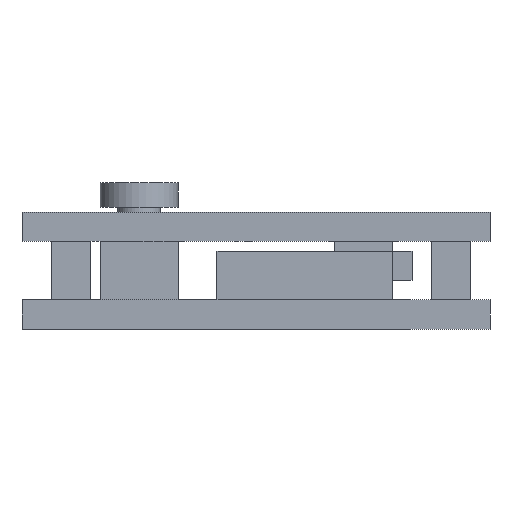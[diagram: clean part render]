
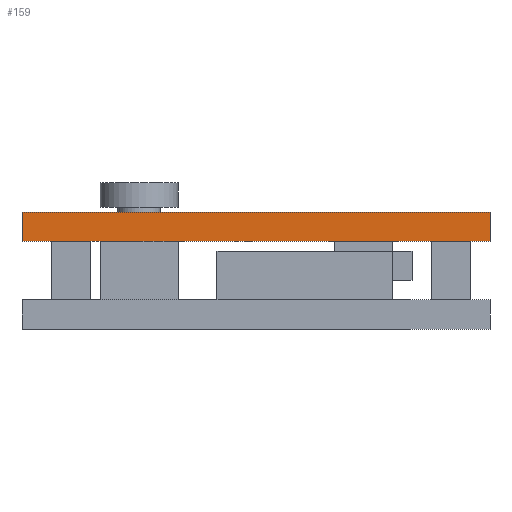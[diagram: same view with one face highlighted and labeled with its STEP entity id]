
A CAD part, front view. The second image highlights one B-rep face of the part: STEP entity #159.
In plain terms, the highlighted planar face has unit normal (0, -1, 0).
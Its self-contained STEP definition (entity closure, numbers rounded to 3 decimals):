
#43 = EDGE_CURVE('',#44,#46,#48,.T.);
#44 = VERTEX_POINT('',#45);
#45 = CARTESIAN_POINT('',(0.,0.,0.));
#46 = VERTEX_POINT('',#47);
#47 = CARTESIAN_POINT('',(0.,0.,3.));
#48 = SURFACE_CURVE('',#49,(#53,#65),.PCURVE_S1.);
#49 = LINE('',#50,#51);
#50 = CARTESIAN_POINT('',(0.,0.,0.));
#51 = VECTOR('',#52,1.);
#52 = DIRECTION('',(0.,0.,1.));
#53 = PCURVE('',#54,#59);
#54 = PLANE('',#55);
#55 = AXIS2_PLACEMENT_3D('',#56,#57,#58);
#56 = CARTESIAN_POINT('',(0.,0.,0.));
#57 = DIRECTION('',(1.,0.,0.));
#58 = DIRECTION('',(0.,0.,1.));
#59 = DEFINITIONAL_REPRESENTATION('',(#60),#64);
#60 = LINE('',#61,#62);
#61 = CARTESIAN_POINT('',(0.,0.));
#62 = VECTOR('',#63,1.);
#63 = DIRECTION('',(1.,0.));
#64 = ( GEOMETRIC_REPRESENTATION_CONTEXT(2) 
PARAMETRIC_REPRESENTATION_CONTEXT() REPRESENTATION_CONTEXT('2D SPACE',''
  ) );
#65 = PCURVE('',#66,#71);
#66 = PLANE('',#67);
#67 = AXIS2_PLACEMENT_3D('',#68,#69,#70);
#68 = CARTESIAN_POINT('',(0.,0.,0.));
#69 = DIRECTION('',(0.,1.,0.));
#70 = DIRECTION('',(0.,0.,1.));
#71 = DEFINITIONAL_REPRESENTATION('',(#72),#76);
#72 = LINE('',#73,#74);
#73 = CARTESIAN_POINT('',(0.,0.));
#74 = VECTOR('',#75,1.);
#75 = DIRECTION('',(1.,0.));
#76 = ( GEOMETRIC_REPRESENTATION_CONTEXT(2) 
PARAMETRIC_REPRESENTATION_CONTEXT() REPRESENTATION_CONTEXT('2D SPACE',''
  ) );
#94 = PLANE('',#95);
#95 = AXIS2_PLACEMENT_3D('',#96,#97,#98);
#96 = CARTESIAN_POINT('',(0.,0.,0.));
#97 = DIRECTION('',(0.,0.,1.));
#98 = DIRECTION('',(1.,0.,0.));
#148 = PLANE('',#149);
#149 = AXIS2_PLACEMENT_3D('',#150,#151,#152);
#150 = CARTESIAN_POINT('',(0.,0.,3.));
#151 = DIRECTION('',(0.,0.,1.));
#152 = DIRECTION('',(1.,0.,0.));
#159 = ADVANCED_FACE('',(#160),#66,.F.);
#160 = FACE_BOUND('',#161,.F.);
#161 = EDGE_LOOP('',(#162,#185,#186,#209));
#162 = ORIENTED_EDGE('',*,*,#163,.F.);
#163 = EDGE_CURVE('',#44,#164,#166,.T.);
#164 = VERTEX_POINT('',#165);
#165 = CARTESIAN_POINT('',(48.,0.,0.));
#166 = SURFACE_CURVE('',#167,(#171,#178),.PCURVE_S1.);
#167 = LINE('',#168,#169);
#168 = CARTESIAN_POINT('',(0.,0.,0.));
#169 = VECTOR('',#170,1.);
#170 = DIRECTION('',(1.,0.,0.));
#171 = PCURVE('',#66,#172);
#172 = DEFINITIONAL_REPRESENTATION('',(#173),#177);
#173 = LINE('',#174,#175);
#174 = CARTESIAN_POINT('',(0.,0.));
#175 = VECTOR('',#176,1.);
#176 = DIRECTION('',(0.,1.));
#177 = ( GEOMETRIC_REPRESENTATION_CONTEXT(2) 
PARAMETRIC_REPRESENTATION_CONTEXT() REPRESENTATION_CONTEXT('2D SPACE',''
  ) );
#178 = PCURVE('',#94,#179);
#179 = DEFINITIONAL_REPRESENTATION('',(#180),#184);
#180 = LINE('',#181,#182);
#181 = CARTESIAN_POINT('',(0.,0.));
#182 = VECTOR('',#183,1.);
#183 = DIRECTION('',(1.,0.));
#184 = ( GEOMETRIC_REPRESENTATION_CONTEXT(2) 
PARAMETRIC_REPRESENTATION_CONTEXT() REPRESENTATION_CONTEXT('2D SPACE',''
  ) );
#185 = ORIENTED_EDGE('',*,*,#43,.T.);
#186 = ORIENTED_EDGE('',*,*,#187,.T.);
#187 = EDGE_CURVE('',#46,#188,#190,.T.);
#188 = VERTEX_POINT('',#189);
#189 = CARTESIAN_POINT('',(48.,0.,3.));
#190 = SURFACE_CURVE('',#191,(#195,#202),.PCURVE_S1.);
#191 = LINE('',#192,#193);
#192 = CARTESIAN_POINT('',(0.,0.,3.));
#193 = VECTOR('',#194,1.);
#194 = DIRECTION('',(1.,0.,0.));
#195 = PCURVE('',#66,#196);
#196 = DEFINITIONAL_REPRESENTATION('',(#197),#201);
#197 = LINE('',#198,#199);
#198 = CARTESIAN_POINT('',(3.,0.));
#199 = VECTOR('',#200,1.);
#200 = DIRECTION('',(0.,1.));
#201 = ( GEOMETRIC_REPRESENTATION_CONTEXT(2) 
PARAMETRIC_REPRESENTATION_CONTEXT() REPRESENTATION_CONTEXT('2D SPACE',''
  ) );
#202 = PCURVE('',#148,#203);
#203 = DEFINITIONAL_REPRESENTATION('',(#204),#208);
#204 = LINE('',#205,#206);
#205 = CARTESIAN_POINT('',(0.,0.));
#206 = VECTOR('',#207,1.);
#207 = DIRECTION('',(1.,0.));
#208 = ( GEOMETRIC_REPRESENTATION_CONTEXT(2) 
PARAMETRIC_REPRESENTATION_CONTEXT() REPRESENTATION_CONTEXT('2D SPACE',''
  ) );
#209 = ORIENTED_EDGE('',*,*,#210,.F.);
#210 = EDGE_CURVE('',#164,#188,#211,.T.);
#211 = SURFACE_CURVE('',#212,(#216,#223),.PCURVE_S1.);
#212 = LINE('',#213,#214);
#213 = CARTESIAN_POINT('',(48.,0.,0.));
#214 = VECTOR('',#215,1.);
#215 = DIRECTION('',(0.,0.,1.));
#216 = PCURVE('',#66,#217);
#217 = DEFINITIONAL_REPRESENTATION('',(#218),#222);
#218 = LINE('',#219,#220);
#219 = CARTESIAN_POINT('',(0.,48.));
#220 = VECTOR('',#221,1.);
#221 = DIRECTION('',(1.,0.));
#222 = ( GEOMETRIC_REPRESENTATION_CONTEXT(2) 
PARAMETRIC_REPRESENTATION_CONTEXT() REPRESENTATION_CONTEXT('2D SPACE',''
  ) );
#223 = PCURVE('',#224,#229);
#224 = PLANE('',#225);
#225 = AXIS2_PLACEMENT_3D('',#226,#227,#228);
#226 = CARTESIAN_POINT('',(48.,0.,0.));
#227 = DIRECTION('',(1.,0.,0.));
#228 = DIRECTION('',(0.,0.,1.));
#229 = DEFINITIONAL_REPRESENTATION('',(#230),#234);
#230 = LINE('',#231,#232);
#231 = CARTESIAN_POINT('',(0.,0.));
#232 = VECTOR('',#233,1.);
#233 = DIRECTION('',(1.,0.));
#234 = ( GEOMETRIC_REPRESENTATION_CONTEXT(2) 
PARAMETRIC_REPRESENTATION_CONTEXT() REPRESENTATION_CONTEXT('2D SPACE',''
  ) );
